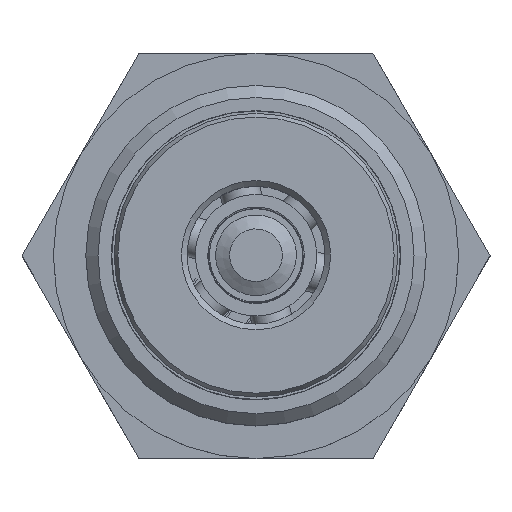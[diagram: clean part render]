
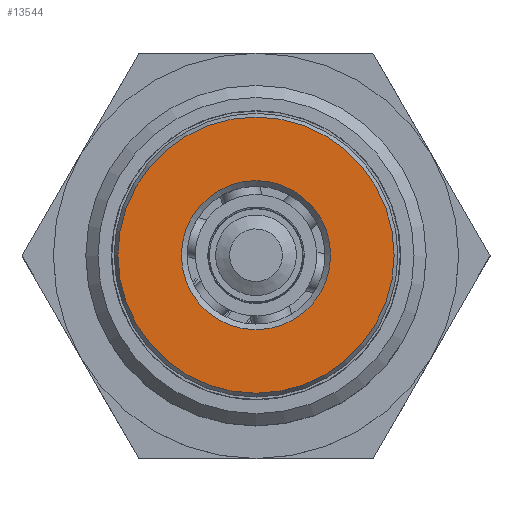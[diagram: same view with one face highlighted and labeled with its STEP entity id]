
A CAD part, top view. The second image highlights one B-rep face of the part: STEP entity #13544.
In plain terms, the highlighted planar face has unit normal (0, 0, 1).
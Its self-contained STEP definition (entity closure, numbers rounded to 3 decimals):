
#388 = ORIENTED_EDGE ( 'NONE', *, *, #19433, .T. ) ;
#2623 = CARTESIAN_POINT ( 'NONE',  ( 0., 0., 68. ) ) ;
#2640 = CARTESIAN_POINT ( 'NONE',  ( 0., 0., 68. ) ) ;
#4575 = DIRECTION ( 'NONE',  ( 1., 0., 0. ) ) ;
#4597 = DIRECTION ( 'NONE',  ( 1., 0., 0. ) ) ;
#6005 = AXIS2_PLACEMENT_3D ( 'NONE', #2640, #16426, #4597 ) ;
#6073 = VERTEX_POINT ( 'NONE', #24518 ) ;
#6488 = CARTESIAN_POINT ( 'NONE',  ( 17.038, 0., 68. ) ) ;
#6683 = EDGE_CURVE ( 'NONE', #23305, #23305, #12457, .T. ) ;
#8362 = AXIS2_PLACEMENT_3D ( 'NONE', #2623, #16403, #4575 ) ;
#9496 = EDGE_LOOP ( 'NONE', ( #20492 ) ) ;
#10601 = CARTESIAN_POINT ( 'NONE',  ( 0., 0., 68. ) ) ;
#12457 = CIRCLE ( 'NONE', #6005, 17.038 ) ;
#12594 = DIRECTION ( 'NONE',  ( 1., 0., 0. ) ) ;
#13016 = FACE_OUTER_BOUND ( 'NONE', #9496, .T. ) ;
#13544 = ADVANCED_FACE ( 'NONE', ( #18240, #13016 ), #20239, .T. ) ;
#16403 = DIRECTION ( 'NONE',  ( 0., 0., 1. ) ) ;
#16426 = DIRECTION ( 'NONE',  ( 0., 0., 1. ) ) ;
#18240 = FACE_BOUND ( 'NONE', #25379, .T. ) ;
#19433 = EDGE_CURVE ( 'NONE', #6073, #6073, #24848, .T. ) ;
#20239 = PLANE ( 'NONE',  #8362 ) ;
#20492 = ORIENTED_EDGE ( 'NONE', *, *, #6683, .T. ) ;
#23305 = VERTEX_POINT ( 'NONE', #6488 ) ;
#24341 = DIRECTION ( 'NONE',  ( 0., 0., -1. ) ) ;
#24518 = CARTESIAN_POINT ( 'NONE',  ( 9.2, 0., 68. ) ) ;
#24552 = AXIS2_PLACEMENT_3D ( 'NONE', #10601, #24341, #12594 ) ;
#24848 = CIRCLE ( 'NONE', #24552, 9.2 ) ;
#25379 = EDGE_LOOP ( 'NONE', ( #388 ) ) ;
